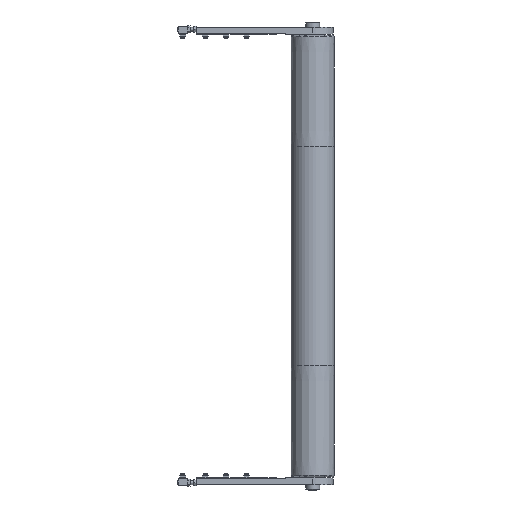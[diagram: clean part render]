
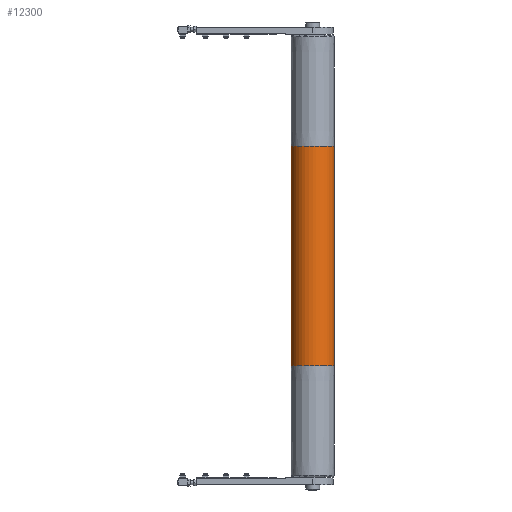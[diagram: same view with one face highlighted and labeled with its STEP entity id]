
A CAD part, front view. The second image highlights one B-rep face of the part: STEP entity #12300.
In plain terms, the highlighted cylindrical face has radius 47.5 mm (diameter 95 mm), a partial arc.
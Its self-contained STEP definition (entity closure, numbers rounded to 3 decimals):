
#60 = EDGE_LOOP ( 'NONE', ( #13891, #12849, #10614, #8532 ) ) ;
#436 = DIRECTION ( 'NONE',  ( -1., 0., 0. ) ) ;
#1158 = CARTESIAN_POINT ( 'NONE',  ( 240., 0., 47.5 ) ) ;
#1278 = CARTESIAN_POINT ( 'NONE',  ( 240., 0., 0. ) ) ;
#1703 = FACE_OUTER_BOUND ( 'NONE', #60, .T. ) ;
#1749 = EDGE_CURVE ( 'NONE', #2466, #11337, #9141, .T. ) ;
#2083 = DIRECTION ( 'NONE',  ( 1., 0., 0. ) ) ;
#2466 = VERTEX_POINT ( 'NONE', #1158 ) ;
#3026 = EDGE_CURVE ( 'NONE', #2466, #3458, #8403, .T. ) ;
#3311 = AXIS2_PLACEMENT_3D ( 'NONE', #8787, #2083, #9927 ) ;
#3458 = VERTEX_POINT ( 'NONE', #10380 ) ;
#3869 = CARTESIAN_POINT ( 'NONE',  ( -240., 0., -47.5 ) ) ;
#3901 = VECTOR ( 'NONE', #11571, 1000. ) ;
#4112 = EDGE_CURVE ( 'NONE', #3458, #12309, #12302, .T. ) ;
#4893 = CARTESIAN_POINT ( 'NONE',  ( -240., 0., 47.5 ) ) ;
#4936 = CARTESIAN_POINT ( 'NONE',  ( 480., 0., 0. ) ) ;
#5406 = DIRECTION ( 'NONE',  ( -1., 0., 0. ) ) ;
#5781 = DIRECTION ( 'NONE',  ( 1., 0., 0. ) ) ;
#5931 = CIRCLE ( 'NONE', #3311, 47.5 ) ;
#6043 = DIRECTION ( 'NONE',  ( 0., 0., 1. ) ) ;
#7333 = CYLINDRICAL_SURFACE ( 'NONE', #13254, 47.5 ) ;
#8068 = DIRECTION ( 'NONE',  ( 0., 0., -1. ) ) ;
#8343 = AXIS2_PLACEMENT_3D ( 'NONE', #1278, #5781, #8068 ) ;
#8403 = CIRCLE ( 'NONE', #8343, 47.5 ) ;
#8532 = ORIENTED_EDGE ( 'NONE', *, *, #13835, .T. ) ;
#8787 = CARTESIAN_POINT ( 'NONE',  ( -240., 0., 0. ) ) ;
#9141 = LINE ( 'NONE', #13545, #3901 ) ;
#9646 = VECTOR ( 'NONE', #5406, 1000. ) ;
#9927 = DIRECTION ( 'NONE',  ( 0., 0., -1. ) ) ;
#10380 = CARTESIAN_POINT ( 'NONE',  ( 240., 0., -47.5 ) ) ;
#10614 = ORIENTED_EDGE ( 'NONE', *, *, #1749, .T. ) ;
#11106 = CARTESIAN_POINT ( 'NONE',  ( 480., 0., -47.5 ) ) ;
#11337 = VERTEX_POINT ( 'NONE', #4893 ) ;
#11571 = DIRECTION ( 'NONE',  ( -1., 0., 0. ) ) ;
#12300 = ADVANCED_FACE ( 'NONE', ( #1703 ), #7333, .T. ) ;
#12302 = LINE ( 'NONE', #11106, #9646 ) ;
#12309 = VERTEX_POINT ( 'NONE', #3869 ) ;
#12849 = ORIENTED_EDGE ( 'NONE', *, *, #3026, .F. ) ;
#13254 = AXIS2_PLACEMENT_3D ( 'NONE', #4936, #436, #6043 ) ;
#13545 = CARTESIAN_POINT ( 'NONE',  ( 480., 0., 47.5 ) ) ;
#13835 = EDGE_CURVE ( 'NONE', #11337, #12309, #5931, .T. ) ;
#13891 = ORIENTED_EDGE ( 'NONE', *, *, #4112, .F. ) ;
